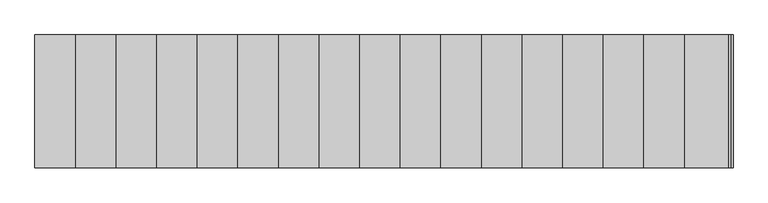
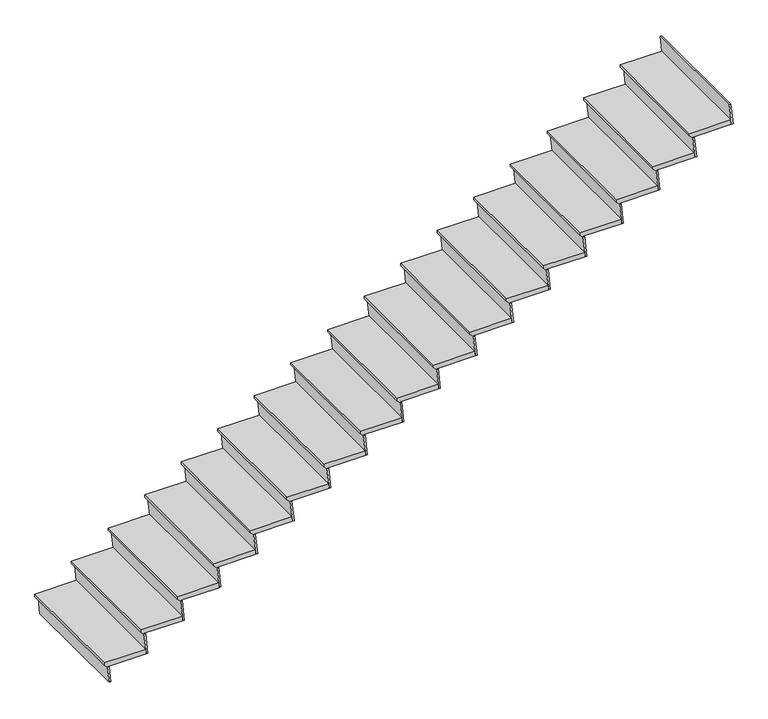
"""IFC4 building model written with IfcOpenShell, lengths in millimetres: stair flight geometry."""

from ifc_helpers import new_model, si_unit, frame, origin, place, context, project, spatial, polyline, outline, extrude, source, transform, mapped, element, save


def stair_flight_dfa91324(model_context):
    return source(origin(), model_context, "Body", "SweptSolid", [
        extrude(outline(polyline([(169.3333333, -26913.3481446), (169.3333333, -27230.8481446), (150.2833333, -27230.8481446), (124.8833333, -27205.4481446), (131.2333333, -27205.4481446), (131.2333333, -26909.4735684), (169.3333333, -26913.3481446)])), frame((0.0, 16106.3635042, 0.0), z_axis=(0.0, 1.0, 0.0), x_axis=(0.0, 0.0, 1.0)), (0.0, 0.0, 1.0), 914.4),
        extrude(outline(polyline([(124.8833333, -27205.4481446), (0.0, -27192.7481446), (0.0, -27179.9826428), (124.8833333, -27192.6826428), (124.8833333, -27205.4481446)])), frame((0.0, 16106.3635042, 0.0), z_axis=(0.0, 1.0, 0.0), x_axis=(0.0, 0.0, 1.0)), (0.0, 0.0, 1.0), 914.4),
        extrude(outline(polyline([(294.2166667, -26926.0481446), (131.2333333, -26909.4735684), (131.2333333, -26896.7080665), (294.2166667, -26913.2826428), (294.2166667, -26926.0481446)])), frame((0.0, 16106.3635042, 0.0), z_axis=(0.0, 1.0, 0.0), x_axis=(0.0, 0.0, 1.0)), (0.0, 0.0, 1.0), 914.4),
        extrude(outline(polyline([(338.6666667, -26633.9481446), (338.6666667, -26951.4481446), (319.6166667, -26951.4481446), (294.2166667, -26926.0481446), (300.5666667, -26926.0481446), (300.5666667, -26630.0735684), (338.6666667, -26633.9481446)])), frame((0.0, 16106.3635042, 0.0), z_axis=(0.0, 1.0, 0.0), x_axis=(0.0, 0.0, 1.0)), (0.0, 0.0, 1.0), 914.4),
        extrude(outline(polyline([(463.55, -26646.6481446), (300.5666667, -26630.0735684), (300.5666667, -26617.3080665), (463.55, -26633.8826428), (463.55, -26646.6481446)])), frame((0.0, 16106.3635042, 0.0), z_axis=(0.0, 1.0, 0.0), x_axis=(0.0, 0.0, 1.0)), (0.0, 0.0, 1.0), 914.4),
        extrude(outline(polyline([(508.0, -26354.5481446), (508.0, -26672.0481446), (488.95, -26672.0481446), (463.55, -26646.6481446), (469.9, -26646.6481446), (469.9, -26350.6735684), (508.0, -26354.5481446)])), frame((0.0, 16106.3635042, 0.0), z_axis=(0.0, 1.0, 0.0), x_axis=(0.0, 0.0, 1.0)), (0.0, 0.0, 1.0), 914.4),
        extrude(outline(polyline([(632.8833333, -26367.2481446), (469.9, -26350.6735684), (469.9, -26337.9080665), (632.8833333, -26354.4826428), (632.8833333, -26367.2481446)])), frame((0.0, 16106.3635042, 0.0), z_axis=(0.0, 1.0, 0.0), x_axis=(0.0, 0.0, 1.0)), (0.0, 0.0, 1.0), 914.4),
        extrude(outline(polyline([(677.3333333, -26075.1481446), (677.3333333, -26392.6481446), (658.2833333, -26392.6481446), (632.8833333, -26367.2481446), (639.2333333, -26367.2481446), (639.2333333, -26071.2735684), (677.3333333, -26075.1481446)])), frame((0.0, 16106.3635042, 0.0), z_axis=(0.0, 1.0, 0.0), x_axis=(0.0, 0.0, 1.0)), (0.0, 0.0, 1.0), 914.4),
        extrude(outline(polyline([(802.2166667, -26087.8481446), (639.2333333, -26071.2735684), (639.2333333, -26058.5080665), (802.2166667, -26075.0826428), (802.2166667, -26087.8481446)])), frame((0.0, 16106.3635042, 0.0), z_axis=(0.0, 1.0, 0.0), x_axis=(0.0, 0.0, 1.0)), (0.0, 0.0, 1.0), 914.4),
        extrude(outline(polyline([(846.6666667, -25795.7481446), (846.6666667, -26113.2481446), (827.6166667, -26113.2481446), (802.2166667, -26087.8481446), (808.5666667, -26087.8481446), (808.5666667, -25791.8735684), (846.6666667, -25795.7481446)])), frame((0.0, 16106.3635042, 0.0), z_axis=(0.0, 1.0, 0.0), x_axis=(0.0, 0.0, 1.0)), (0.0, 0.0, 1.0), 914.4),
        extrude(outline(polyline([(971.55, -25808.4481446), (808.5666667, -25791.8735684), (808.5666667, -25779.1080665), (971.55, -25795.6826428), (971.55, -25808.4481446)])), frame((0.0, 16106.3635042, 0.0), z_axis=(0.0, 1.0, 0.0), x_axis=(0.0, 0.0, 1.0)), (0.0, 0.0, 1.0), 914.4),
        extrude(outline(polyline([(1016.0, -25516.3481446), (1016.0, -25833.8481446), (996.95, -25833.8481446), (971.55, -25808.4481446), (977.9, -25808.4481446), (977.9, -25512.4735684), (1016.0, -25516.3481446)])), frame((0.0, 16106.3635042, 0.0), z_axis=(0.0, 1.0, 0.0), x_axis=(0.0, 0.0, 1.0)), (0.0, 0.0, 1.0), 914.4),
        extrude(outline(polyline([(1140.8833333, -25529.0481446), (977.9, -25512.4735684), (977.9, -25499.7080665), (1140.8833333, -25516.2826428), (1140.8833333, -25529.0481446)])), frame((0.0, 16106.3635042, 0.0), z_axis=(0.0, 1.0, 0.0), x_axis=(0.0, 0.0, 1.0)), (0.0, 0.0, 1.0), 914.4),
        extrude(outline(polyline([(1185.3333333, -25236.9481446), (1185.3333333, -25554.4481446), (1166.2833333, -25554.4481446), (1140.8833333, -25529.0481446), (1147.2333333, -25529.0481446), (1147.2333333, -25233.0735684), (1185.3333333, -25236.9481446)])), frame((0.0, 16106.3635042, 0.0), z_axis=(0.0, 1.0, 0.0), x_axis=(0.0, 0.0, 1.0)), (0.0, 0.0, 1.0), 914.4),
        extrude(outline(polyline([(1310.2166667, -25249.6481446), (1147.2333333, -25233.0735684), (1147.2333333, -25220.3080665), (1310.2166667, -25236.8826428), (1310.2166667, -25249.6481446)])), frame((0.0, 16106.3635042, 0.0), z_axis=(0.0, 1.0, 0.0), x_axis=(0.0, 0.0, 1.0)), (0.0, 0.0, 1.0), 914.4),
        extrude(outline(polyline([(1354.6666667, -24957.5481446), (1354.6666667, -25275.0481446), (1335.6166667, -25275.0481446), (1310.2166667, -25249.6481446), (1316.5666667, -25249.6481446), (1316.5666667, -24953.6735684), (1354.6666667, -24957.5481446)])), frame((0.0, 16106.3635042, 0.0), z_axis=(0.0, 1.0, 0.0), x_axis=(0.0, 0.0, 1.0)), (0.0, 0.0, 1.0), 914.4),
        extrude(outline(polyline([(1479.55, -24970.2481446), (1316.5666667, -24953.6735684), (1316.5666667, -24940.9080665), (1479.55, -24957.4826428), (1479.55, -24970.2481446)])), frame((0.0, 16106.3635042, 0.0), z_axis=(0.0, 1.0, 0.0), x_axis=(0.0, 0.0, 1.0)), (0.0, 0.0, 1.0), 914.4),
        extrude(outline(polyline([(1524.0, -24678.1481446), (1524.0, -24995.6481446), (1504.95, -24995.6481446), (1479.55, -24970.2481446), (1485.9, -24970.2481446), (1485.9, -24674.2735684), (1524.0, -24678.1481446)])), frame((0.0, 16106.3635042, 0.0), z_axis=(0.0, 1.0, 0.0), x_axis=(0.0, 0.0, 1.0)), (0.0, 0.0, 1.0), 914.4),
        extrude(outline(polyline([(1648.8833333, -24690.8481446), (1485.9, -24674.2735684), (1485.9, -24661.5080665), (1648.8833333, -24678.0826428), (1648.8833333, -24690.8481446)])), frame((0.0, 16106.3635042, 0.0), z_axis=(0.0, 1.0, 0.0), x_axis=(0.0, 0.0, 1.0)), (0.0, 0.0, 1.0), 914.4),
        extrude(outline(polyline([(1693.3333333, -24398.7481446), (1693.3333333, -24716.2481446), (1674.2833333, -24716.2481446), (1648.8833333, -24690.8481446), (1655.2333333, -24690.8481446), (1655.2333333, -24394.8735684), (1693.3333333, -24398.7481446)])), frame((0.0, 16106.3635042, 0.0), z_axis=(0.0, 1.0, 0.0), x_axis=(0.0, 0.0, 1.0)), (0.0, 0.0, 1.0), 914.4),
        extrude(outline(polyline([(1818.2166667, -24411.4481446), (1655.2333333, -24394.8735684), (1655.2333333, -24382.1080665), (1818.2166667, -24398.6826428), (1818.2166667, -24411.4481446)])), frame((0.0, 16106.3635042, 0.0), z_axis=(0.0, 1.0, 0.0), x_axis=(0.0, 0.0, 1.0)), (0.0, 0.0, 1.0), 914.4),
        extrude(outline(polyline([(1862.6666667, -24119.3481446), (1862.6666667, -24436.8481446), (1843.6166667, -24436.8481446), (1818.2166667, -24411.4481446), (1824.5666667, -24411.4481446), (1824.5666667, -24115.4735684), (1862.6666667, -24119.3481446)])), frame((0.0, 16106.3635042, 0.0), z_axis=(0.0, 1.0, 0.0), x_axis=(0.0, 0.0, 1.0)), (0.0, 0.0, 1.0), 914.4),
        extrude(outline(polyline([(1987.55, -24132.0481446), (1824.5666667, -24115.4735684), (1824.5666667, -24102.7080665), (1987.55, -24119.2826428), (1987.55, -24132.0481446)])), frame((0.0, 16106.3635042, 0.0), z_axis=(0.0, 1.0, 0.0), x_axis=(0.0, 0.0, 1.0)), (0.0, 0.0, 1.0), 914.4),
        extrude(outline(polyline([(2032.0, -23839.9481446), (2032.0, -24157.4481446), (2012.95, -24157.4481446), (1987.55, -24132.0481446), (1993.9, -24132.0481446), (1993.9, -23836.0735684), (2032.0, -23839.9481446)])), frame((0.0, 16106.3635042, 0.0), z_axis=(0.0, 1.0, 0.0), x_axis=(0.0, 0.0, 1.0)), (0.0, 0.0, 1.0), 914.4),
        extrude(outline(polyline([(2156.8833333, -23852.6481446), (1993.9, -23836.0735684), (1993.9, -23823.3080665), (2156.8833333, -23839.8826428), (2156.8833333, -23852.6481446)])), frame((0.0, 16106.3635042, 0.0), z_axis=(0.0, 1.0, 0.0), x_axis=(0.0, 0.0, 1.0)), (0.0, 0.0, 1.0), 914.4),
        extrude(outline(polyline([(2201.3333333, -23560.5481446), (2201.3333333, -23878.0481446), (2182.2833333, -23878.0481446), (2156.8833333, -23852.6481446), (2163.2333333, -23852.6481446), (2163.2333333, -23556.6735684), (2201.3333333, -23560.5481446)])), frame((0.0, 16106.3635042, 0.0), z_axis=(0.0, 1.0, 0.0), x_axis=(0.0, 0.0, 1.0)), (0.0, 0.0, 1.0), 914.4),
        extrude(outline(polyline([(2326.2166667, -23573.2481446), (2163.2333333, -23556.6735684), (2163.2333333, -23543.9080665), (2326.2166667, -23560.4826428), (2326.2166667, -23573.2481446)])), frame((0.0, 16106.3635042, 0.0), z_axis=(0.0, 1.0, 0.0), x_axis=(0.0, 0.0, 1.0)), (0.0, 0.0, 1.0), 914.4),
        extrude(outline(polyline([(2370.6666667, -23281.1481446), (2370.6666667, -23598.6481446), (2351.6166667, -23598.6481446), (2326.2166667, -23573.2481446), (2332.5666667, -23573.2481446), (2332.5666667, -23277.2735684), (2370.6666667, -23281.1481446)])), frame((0.0, 16106.3635042, 0.0), z_axis=(0.0, 1.0, 0.0), x_axis=(0.0, 0.0, 1.0)), (0.0, 0.0, 1.0), 914.4),
        extrude(outline(polyline([(2495.55, -23293.8481446), (2332.5666667, -23277.2735684), (2332.5666667, -23264.5080665), (2495.55, -23281.0826428), (2495.55, -23293.8481446)])), frame((0.0, 16106.3635042, 0.0), z_axis=(0.0, 1.0, 0.0), x_axis=(0.0, 0.0, 1.0)), (0.0, 0.0, 1.0), 914.4),
        extrude(outline(polyline([(2540.0, -23001.7481446), (2540.0, -23319.2481446), (2520.95, -23319.2481446), (2495.55, -23293.8481446), (2501.9, -23293.8481446), (2501.9, -22997.8735684), (2540.0, -23001.7481446)])), frame((0.0, 16106.3635042, 0.0), z_axis=(0.0, 1.0, 0.0), x_axis=(0.0, 0.0, 1.0)), (0.0, 0.0, 1.0), 914.4),
        extrude(outline(polyline([(2664.8833333, -23014.4481446), (2501.9, -22997.8735684), (2501.9, -22985.1080665), (2664.8833333, -23001.6826428), (2664.8833333, -23014.4481446)])), frame((0.0, 16106.3635042, 0.0), z_axis=(0.0, 1.0, 0.0), x_axis=(0.0, 0.0, 1.0)), (0.0, 0.0, 1.0), 914.4),
        extrude(outline(polyline([(2709.3333333, -22722.3481446), (2709.3333333, -23039.8481446), (2690.2833333, -23039.8481446), (2664.8833333, -23014.4481446), (2671.2333333, -23014.4481446), (2671.2333333, -22718.4735684), (2709.3333333, -22722.3481446)])), frame((0.0, 16106.3635042, 0.0), z_axis=(0.0, 1.0, 0.0), x_axis=(0.0, 0.0, 1.0)), (0.0, 0.0, 1.0), 914.4),
        extrude(outline(polyline([(2834.2166667, -22735.0481446), (2671.2333333, -22718.4735684), (2671.2333333, -22705.7080665), (2834.2166667, -22722.2826428), (2834.2166667, -22735.0481446)])), frame((0.0, 16106.3635042, 0.0), z_axis=(0.0, 1.0, 0.0), x_axis=(0.0, 0.0, 1.0)), (0.0, 0.0, 1.0), 914.4),
        extrude(outline(polyline([(3003.55, -22455.6481446), (2840.5666667, -22439.0735684), (2840.5666667, -22426.3080665), (3003.55, -22442.8826428), (3003.55, -22455.6481446)])), frame((0.0, 16106.3635042, 0.0), z_axis=(0.0, 1.0, 0.0), x_axis=(0.0, 0.0, 1.0)), (0.0, 0.0, 1.0), 914.4),
        extrude(outline(polyline([(2878.6666667, -22442.9481446), (2878.6666667, -22760.4481446), (2859.6166667, -22760.4481446), (2834.2166667, -22735.0481446), (2840.5666667, -22735.0481446), (2840.5666667, -22439.0735684), (2878.6666667, -22442.9481446)])), frame((0.0, 16106.3635042, 0.0), z_axis=(0.0, 1.0, 0.0), x_axis=(0.0, 0.0, 1.0)), (0.0, 0.0, 1.0), 914.4),
    ])


if __name__ == "__main__":
    model = new_model("IFC4")
    model_context = context("Model", 3, world=origin())
    ifc_project = project(units=[si_unit("LENGTHUNIT", "METRE", prefix="MILLI")], contexts=[model_context])
    site = spatial("IfcSite", under=ifc_project)
    building = spatial("IfcBuilding", under=site)
    placement = place(None, origin())
    stair_flight_shape = stair_flight_dfa91324(model_context)
    element("IfcStairFlight", 1, ObjectType="Unassigned Steps with 1 1/2\" Tread 1 1/2\" Nosing 1/2\" Riser", at=placement, inside=building, context=model_context, shape_type="MappedRepresentation", body=[
        mapped(stair_flight_shape, transform((0.0, 0.0, 0.0), x_axis=(1.0, 0.0, 0.0), y_axis=(0.0, 1.0, 0.0), z_axis=(0.0, 0.0, 1.0))),
    ])
    save(model, "model.ifc")
